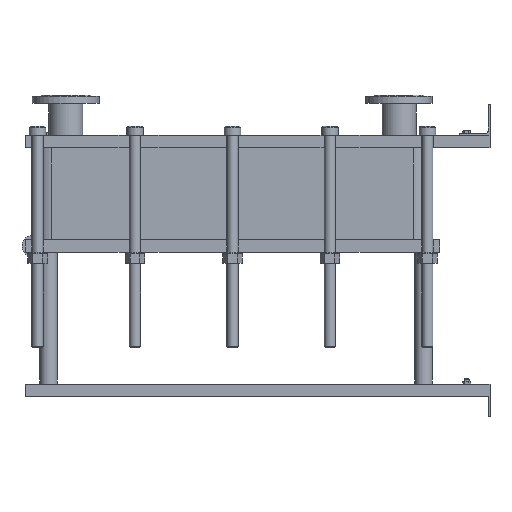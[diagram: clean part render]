
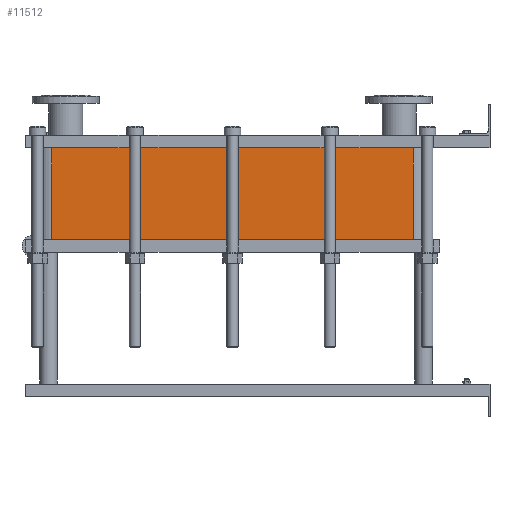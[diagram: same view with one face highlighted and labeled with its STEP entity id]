
A CAD part, left-side view. The second image highlights one B-rep face of the part: STEP entity #11512.
In plain terms, the highlighted planar face has unit normal (-1, 0, 0).
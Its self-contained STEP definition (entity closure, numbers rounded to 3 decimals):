
#1129=LINE('',#23232,#2102);
#1130=LINE('',#23236,#2103);
#1131=LINE('',#23238,#2104);
#1132=LINE('',#23239,#2105);
#2102=VECTOR('',#15887,10.);
#2103=VECTOR('',#15892,10.);
#2104=VECTOR('',#15893,10.);
#2105=VECTOR('',#15894,10.);
#3267=FACE_OUTER_BOUND('',#4093,.T.);
#4093=EDGE_LOOP('',(#10103,#10104,#10105,#10106));
#5642=VERTEX_POINT('',#23229);
#5643=VERTEX_POINT('',#23231);
#5644=VERTEX_POINT('',#23235);
#5645=VERTEX_POINT('',#23237);
#7159=EDGE_CURVE('',#5643,#5642,#1129,.T.);
#7161=EDGE_CURVE('',#5642,#5644,#1130,.T.);
#7162=EDGE_CURVE('',#5645,#5644,#1131,.T.);
#7163=EDGE_CURVE('',#5645,#5643,#1132,.T.);
#10103=ORIENTED_EDGE('',*,*,#7161,.T.);
#10104=ORIENTED_EDGE('',*,*,#7162,.F.);
#10105=ORIENTED_EDGE('',*,*,#7163,.T.);
#10106=ORIENTED_EDGE('',*,*,#7159,.T.);
#10857=PLANE('',#12751);
#11512=ADVANCED_FACE('',(#3267),#10857,.T.);
#12751=AXIS2_PLACEMENT_3D('',#23234,#15890,#15891);
#15887=DIRECTION('',(0.,0.,-1.));
#15890=DIRECTION('center_axis',(-1.,0.,0.));
#15891=DIRECTION('ref_axis',(0.,1.,0.));
#15892=DIRECTION('',(0.,-1.,0.));
#15893=DIRECTION('',(0.,0.,-1.));
#15894=DIRECTION('',(0.,1.,0.));
#23229=CARTESIAN_POINT('',(-200.,1414.,-296.7));
#23231=CARTESIAN_POINT('',(-200.,1414.,0.));
#23232=CARTESIAN_POINT('',(-200.,1414.,0.));
#23234=CARTESIAN_POINT('Origin',(-200.,248.,0.));
#23235=CARTESIAN_POINT('',(-200.,248.,-296.7));
#23236=CARTESIAN_POINT('',(-200.,539.5,-296.7));
#23237=CARTESIAN_POINT('',(-200.,248.,0.));
#23238=CARTESIAN_POINT('',(-200.,248.,0.));
#23239=CARTESIAN_POINT('',(-200.,248.,0.));
